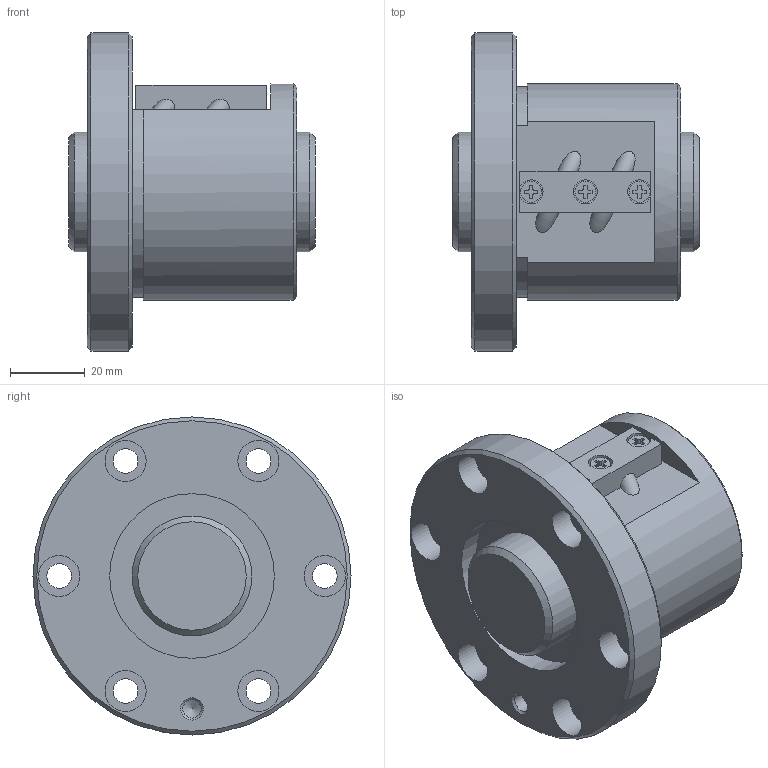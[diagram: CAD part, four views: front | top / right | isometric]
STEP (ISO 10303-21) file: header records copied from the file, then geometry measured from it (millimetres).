
FILE_DESCRIPTION(/* description */ ('STEP AP203'),/* implementation_level */ '2;1');
FILE_NAME(/* name */ 'SBN3205V-5G0+66LC0(0000)',/* time_stamp */ '2024-05-28T10:24:47+02:00',/* author */ ('License CC BY-ND 4.0'),/* organization */ ('CADENAS'),/* preprocessor_version */ 'ST-DEVELOPER v19.3',/* originating_system */ 'PARTsolutions',/* authorisation */ ' ');
FILE_SCHEMA (('CONFIG_CONTROL_DESIGN'));
Length unit declared in the file: millimetre
Products named in the file (3): SBN3205V-5G0+66LC0(0000); N010SBN3205V-50Shaft; N00SBN3205V-5Nut
Assembly tree (2 placements, depth 2):
  SBN3205V-5G0+66LC0(0000)
    N010SBN3205V-50Shaft
    N00SBN3205V-5Nut
Bounding box: 66 x 85 x 85 mm (x, y, z)
Volume: 174160.2 mm3; surface area: 37797.7 mm2
Topology: 2 solids, 2 shells, 121 faces, 285 edges, 188 vertices
Faces by surface type: plane 69, cylinder 41, cone 7, torus 4
Full cylindrical faces by diameter (mm): 4.8 x3, 4.917 x1, 5.6 x3, 6.4 x1, 6.6 x6, 11 x6, 32 x2, 44 x2, 58 x1, 85 x1
Entity records: 3467 total; most frequent: CARTESIAN_POINT 647, DIRECTION 578, ORIENTED_EDGE 498, EDGE_CURVE 249, AXIS2_PLACEMENT_3D 213, FACE_BOUND 189, EDGE_LOOP 188, VERTEX_POINT 186
